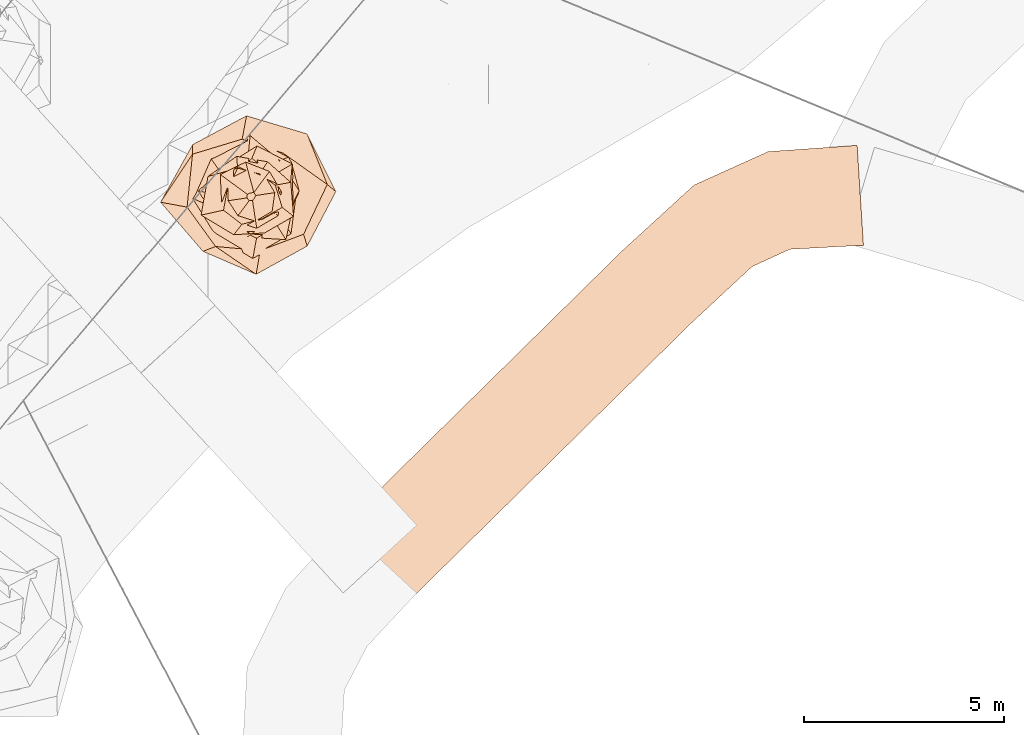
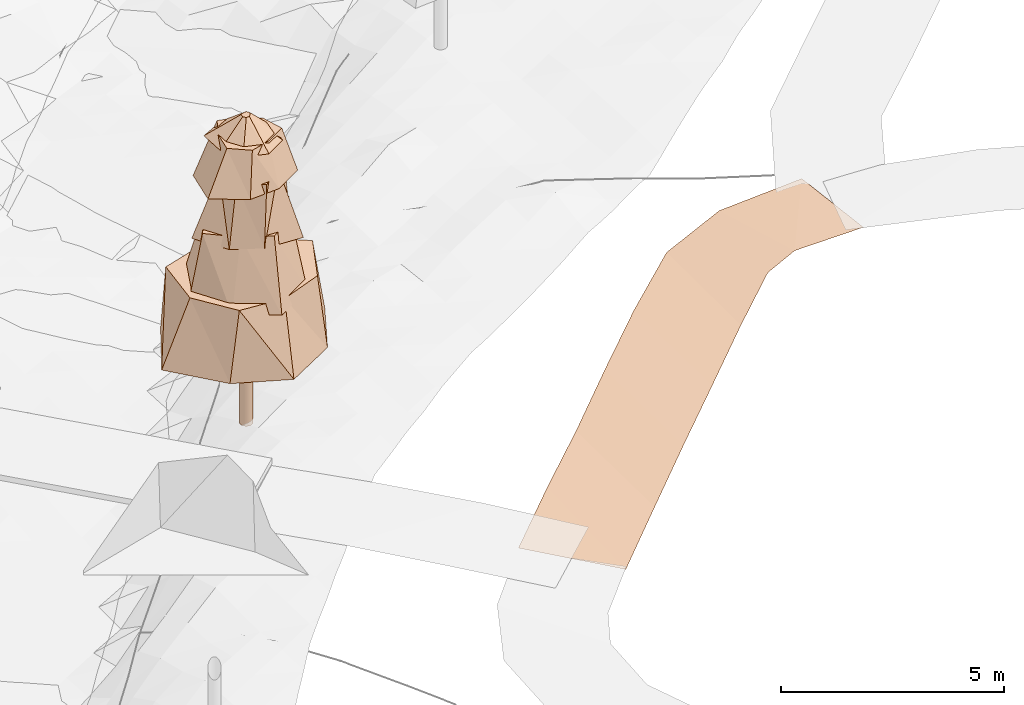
# Not in any storey, part 21 of 88: 2 geographic elements.
"""IFC4 model written with IfcOpenShell, lengths in metres."""

from ifc_helpers import new_model, si_unit, frame, origin_with_axes, place, context, subcontext, project, spatial, circle, extrude, faceted_brep, triangles, element, save


model = new_model("IFC4")

# Units and contexts
model_context = context("Model", 3, precision=1e-05, world=origin_with_axes())
body_context = subcontext(model_context, "Body", "Model", "MODEL_VIEW")
ifc_project = project(units=[si_unit("LENGTHUNIT", "METRE"), si_unit("AREAUNIT", "SQUARE_METRE"), si_unit("VOLUMEUNIT", "CUBIC_METRE"), si_unit("PLANEANGLEUNIT", "RADIAN")], contexts=[model_context])

# Sites
site_1_placement = place(None, origin_with_axes())
site_1 = spatial("IfcSite", under=ifc_project, at=site_1_placement, Name="CH907857693633", CompositionType="ELEMENT")
site_2_placement = place(None, origin_with_axes())
site_2 = spatial("IfcSite", under=site_1, at=site_2_placement, Name="Roads", CompositionType="ELEMENT")

# Geographic element
geographic_element_1_placement = place(None, origin_with_axes())
element("IfcGeographicElement", 1, at=geographic_element_1_placement, inside=site_2, Name="Road_weg", ObjectType="ROAD", PredefinedType="USERDEFINED", context=body_context, shape_type="Tessellation", body=[
    triangles([(58.4193675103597, 10.5310788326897, 2.86665039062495), (60.146867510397, 12.2305788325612, 2.8912475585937), (61.8743675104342, 13.9300788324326, 2.7982299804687), (63.6018675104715, 15.6295788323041, 2.84406738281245), (65.3433797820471, 17.3426504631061, 2.81977539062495), (67.1357012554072, 18.9811918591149, 2.78547363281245), (68.9824224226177, 19.8161450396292, 2.77595214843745), (71.2074156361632, 19.9715307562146, 2.77961425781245), (60.1726325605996, 8.74892797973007, 2.74946289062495), (61.9001325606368, 10.4484279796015, 2.8215454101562), (63.6276325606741, 12.147927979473, 2.8775756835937), (65.3551325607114, 13.8474279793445, 2.88056640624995), (67.0686202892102, 15.5333563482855, 2.90339355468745), (68.5802988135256, 16.9408149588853, 2.96430664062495), (69.5255776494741, 17.3758617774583, 2.9699829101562), (71.3645844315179, 17.4764760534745, 2.90461425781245)], [[1, 9, 2], [9, 10, 2], [2, 10, 3], [10, 11, 3], [3, 11, 4], [11, 12, 4], [4, 12, 5], [12, 13, 5], [5, 13, 6], [13, 14, 6], [6, 14, 7], [14, 15, 7], [7, 15, 8], [15, 16, 8]]),
])

# Site
site_3_placement = place(None, origin_with_axes())
site_3 = spatial("IfcSite", under=site_1, at=site_3_placement, Name="Simulated_forest", CompositionType="ELEMENT")

# Geographic element
geographic_element_2_placement = place(None, frame((56.0832574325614, 18.6896650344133, 2.17535400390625), z_axis=(0.0, 0.0, 1.0), x_axis=(1.0, 0.0, 0.0)))
element("IfcGeographicElement", 2, at=geographic_element_2_placement, inside=site_3, Name="Tree_SIMULATED_WOODED_AREA", ObjectType="VEGETATION", PredefinedType="USERDEFINED", context=body_context, shape_type="Brep", body=[
    extrude(circle(Radius=0.15), origin_with_axes(), (0.0, 0.0, 1.0), 2.31387184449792),
    faceted_brep([(1.3923950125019, -1.23362656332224, 2.31387184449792), (0.117139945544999, -1.93748837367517, 2.31387184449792), (-1.20974359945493, -1.36543829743, 2.31387184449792), (-2.26935199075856, -0.137204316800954, 2.31387184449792), (-1.46794378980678, 1.30056085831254, 2.31387184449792), (-0.122137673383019, 2.0201505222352, 2.31387184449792), (1.38852837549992, 1.56723277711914, 2.31387184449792), (2.10717128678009, 0.127398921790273, 2.31387184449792), (1.89299813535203, 0.306241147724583, 4.13287984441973), (0.786676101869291, 1.09033015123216, 4.13287984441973), (-0.2325444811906, 1.43744977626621, 4.13287984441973), (-1.47157377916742, 1.06174439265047, 4.13287984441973), (-1.60761062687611, -0.26007237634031, 4.13287984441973), (-0.896569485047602, -1.24264197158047, 4.13287984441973), (0.217588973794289, -1.34500384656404, 4.13287984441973), (1.30171504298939, -0.939190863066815, 4.13287984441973), (2.10717128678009, 0.127398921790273, 2.31387184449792), (1.38852837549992, 1.56723277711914, 2.31387184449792), (0.786676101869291, 1.09033015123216, 4.13287984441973), (1.89299813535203, 0.306241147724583, 4.13287984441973), (1.38852837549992, 1.56723277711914, 2.31387184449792), (-0.122137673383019, 2.0201505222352, 2.31387184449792), (-0.2325444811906, 1.43744977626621, 4.13287984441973), (0.786676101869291, 1.09033015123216, 4.13287984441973), (-0.122137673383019, 2.0201505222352, 2.31387184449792), (-1.46794378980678, 1.30056085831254, 2.31387184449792), (-1.47157377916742, 1.06174439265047, 4.13287984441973), (-0.2325444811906, 1.43744977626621, 4.13287984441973), (-1.46794378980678, 1.30056085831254, 2.31387184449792), (-2.26935199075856, -0.137204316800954, 2.31387184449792), (-1.60761062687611, -0.26007237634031, 4.13287984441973), (-1.47157377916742, 1.06174439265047, 4.13287984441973), (-2.26935199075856, -0.137204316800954, 2.31387184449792), (-1.20974359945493, -1.36543829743, 2.31387184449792), (-0.896569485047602, -1.24264197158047, 4.13287984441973), (-1.60761062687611, -0.26007237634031, 4.13287984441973), (-1.20974359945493, -1.36543829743, 2.31387184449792), (0.117139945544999, -1.93748837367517, 2.31387184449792), (0.217588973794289, -1.34500384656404, 4.13287984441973), (-0.896569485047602, -1.24264197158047, 4.13287984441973), (0.117139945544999, -1.93748837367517, 2.31387184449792), (1.3923950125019, -1.23362656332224, 2.31387184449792), (1.30171504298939, -0.939190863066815, 4.13287984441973), (0.217588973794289, -1.34500384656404, 4.13287984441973), (1.3923950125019, -1.23362656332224, 2.31387184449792), (2.10717128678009, 0.127398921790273, 2.31387184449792), (1.89299813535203, 0.306241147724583, 4.13287984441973), (1.30171504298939, -0.939190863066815, 4.13287984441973)], [[[0, 1, 2, 3, 4, 5, 6, 7]], [[8, 9, 10, 11, 12, 13, 14, 15]], [[16, 17, 18, 19]], [[20, 21, 22, 23]], [[24, 25, 26, 27]], [[28, 29, 30, 31]], [[32, 33, 34, 35]], [[36, 37, 38, 39]], [[40, 41, 42, 43]], [[44, 45, 46, 47]]]),
    faceted_brep([(1.01979401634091, -0.976627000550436, 3.86002864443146), (0.0333568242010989, -1.54271180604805, 3.86002864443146), (-0.927027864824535, -0.968002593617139, 3.86002864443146), (-1.50522440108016, -0.0325462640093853, 3.86002864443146), (-1.04915610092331, 1.00474621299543, 3.86002864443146), (-0.0330045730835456, 1.52642062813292, 3.86002864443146), (0.957217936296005, 0.999527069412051, 3.86002864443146), (1.15300796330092, 0.0249305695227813, 3.86002864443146), (1.19173112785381, 0.14565579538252, 5.6910714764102), (0.706334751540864, 0.903035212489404, 5.6910714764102), (-0.102009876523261, 0.83462758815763, 5.6910714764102), (-0.756284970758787, 0.591549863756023, 5.6910714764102), (-1.21638390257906, -0.14866890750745, 5.6910714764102), (-0.552663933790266, -0.70657006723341, 5.6910714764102), (0.126869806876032, -1.03802734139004, 5.6910714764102), (0.802522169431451, -0.627715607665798, 5.6910714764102), (1.15300796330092, 0.0249305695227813, 3.86002864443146), (0.957217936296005, 0.999527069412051, 3.86002864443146), (0.706334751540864, 0.903035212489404, 5.6910714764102), (1.19173112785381, 0.14565579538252, 5.6910714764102), (0.957217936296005, 0.999527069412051, 3.86002864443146), (-0.0330045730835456, 1.52642062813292, 3.86002864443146), (-0.102009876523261, 0.83462758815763, 5.6910714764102), (0.706334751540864, 0.903035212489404, 5.6910714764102), (-0.0330045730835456, 1.52642062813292, 3.86002864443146), (-1.04915610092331, 1.00474621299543, 3.86002864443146), (-0.756284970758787, 0.591549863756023, 5.6910714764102), (-0.102009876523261, 0.83462758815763, 5.6910714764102), (-1.04915610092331, 1.00474621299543, 3.86002864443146), (-1.50522440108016, -0.0325462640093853, 3.86002864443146), (-1.21638390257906, -0.14866890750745, 5.6910714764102), (-0.756284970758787, 0.591549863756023, 5.6910714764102), (-1.50522440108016, -0.0325462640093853, 3.86002864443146), (-0.927027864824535, -0.968002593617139, 3.86002864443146), (-0.552663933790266, -0.70657006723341, 5.6910714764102), (-1.21638390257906, -0.14866890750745, 5.6910714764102), (-0.927027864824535, -0.968002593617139, 3.86002864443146), (0.0333568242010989, -1.54271180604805, 3.86002864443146), (0.126869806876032, -1.03802734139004, 5.6910714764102), (-0.552663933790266, -0.70657006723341, 5.6910714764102), (0.0333568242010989, -1.54271180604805, 3.86002864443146), (1.01979401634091, -0.976627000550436, 3.86002864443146), (0.802522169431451, -0.627715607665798, 5.6910714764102), (0.126869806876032, -1.03802734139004, 5.6910714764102), (1.01979401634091, -0.976627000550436, 3.86002864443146), (1.15300796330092, 0.0249305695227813, 3.86002864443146), (1.19173112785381, 0.14565579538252, 5.6910714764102), (0.802522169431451, -0.627715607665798, 5.6910714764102)], [[[0, 1, 2, 3, 4, 5, 6, 7]], [[8, 9, 10, 11, 12, 13, 14, 15]], [[16, 17, 18, 19]], [[20, 21, 22, 23]], [[24, 25, 26, 27]], [[28, 29, 30, 31]], [[32, 33, 34, 35]], [[36, 37, 38, 39]], [[40, 41, 42, 43]], [[44, 45, 46, 47]]]),
    faceted_brep([(1.06154887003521, -0.116722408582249, 5.41641505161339), (0.860214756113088, -1.07275397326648, 5.41641505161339), (-0.11111082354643, -1.01051349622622, 5.41641505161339), (-0.817117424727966, -0.655226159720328, 5.41641505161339), (-1.32708660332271, 0.145919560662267, 5.41641505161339), (-0.629096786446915, 0.784532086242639, 5.41641505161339), (0.139295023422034, 1.26683878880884, 5.41641505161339), (1.0185028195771, 0.816712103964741, 5.41641505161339), (0.548265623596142, 0.537930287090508, 7.08596196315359), (0.00911584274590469, 0.958032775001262, 7.08596196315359), (-0.484568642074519, 0.493878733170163, 7.08596196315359), (-0.700780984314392, 0.00666804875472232, 7.08596196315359), (-0.58980883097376, -0.578690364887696, 7.08596196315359), (-0.00890056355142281, -0.935407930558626, 7.08596196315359), (0.523535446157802, -0.533594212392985, 7.08596196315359), (0.944918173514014, -0.00899105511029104, 7.08596196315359), (1.0185028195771, 0.816712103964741, 5.41641505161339), (0.139295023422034, 1.26683878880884, 5.41641505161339), (0.00911584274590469, 0.958032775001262, 7.08596196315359), (0.548265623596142, 0.537930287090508, 7.08596196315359), (0.139295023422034, 1.26683878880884, 5.41641505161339), (-0.629096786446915, 0.784532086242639, 5.41641505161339), (-0.484568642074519, 0.493878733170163, 7.08596196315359), (0.00911584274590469, 0.958032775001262, 7.08596196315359), (-0.629096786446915, 0.784532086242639, 5.41641505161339), (-1.32708660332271, 0.145919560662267, 5.41641505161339), (-0.700780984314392, 0.00666804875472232, 7.08596196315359), (-0.484568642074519, 0.493878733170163, 7.08596196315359), (-1.32708660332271, 0.145919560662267, 5.41641505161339), (-0.817117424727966, -0.655226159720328, 5.41641505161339), (-0.58980883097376, -0.578690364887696, 7.08596196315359), (-0.700780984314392, 0.00666804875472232, 7.08596196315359), (-0.817117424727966, -0.655226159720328, 5.41641505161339), (-0.11111082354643, -1.01051349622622, 5.41641505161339), (-0.00890056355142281, -0.935407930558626, 7.08596196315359), (-0.58980883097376, -0.578690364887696, 7.08596196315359), (-0.11111082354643, -1.01051349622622, 5.41641505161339), (0.860214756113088, -1.07275397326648, 5.41641505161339), (0.523535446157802, -0.533594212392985, 7.08596196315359), (-0.00890056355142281, -0.935407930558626, 7.08596196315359), (0.860214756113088, -1.07275397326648, 5.41641505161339), (1.06154887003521, -0.116722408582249, 5.41641505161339), (0.944918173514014, -0.00899105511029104, 7.08596196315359), (0.523535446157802, -0.533594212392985, 7.08596196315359), (1.06154887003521, -0.116722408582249, 5.41641505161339), (1.0185028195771, 0.816712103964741, 5.41641505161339), (0.548265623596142, 0.537930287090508, 7.08596196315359), (0.944918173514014, -0.00899105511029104, 7.08596196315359)], [[[0, 1, 2, 3, 4, 5, 6, 7]], [[8, 9, 10, 11, 12, 13, 14, 15]], [[16, 17, 18, 19]], [[20, 21, 22, 23]], [[24, 25, 26, 27]], [[28, 29, 30, 31]], [[32, 33, 34, 35]], [[36, 37, 38, 39]], [[40, 41, 42, 43]], [[44, 45, 46, 47]]]),
    faceted_brep([(1.05108996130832, -0.488559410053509, 6.83552992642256), (0.330196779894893, -0.903750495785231, 6.83552992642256), (-0.441648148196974, -0.950164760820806, 6.83552992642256), (-1.25712717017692, -0.459307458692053, 6.83552992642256), (-1.08576449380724, 0.50467655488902, 6.83552992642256), (-0.368146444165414, 1.00761894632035, 6.83552992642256), (0.404718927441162, 0.870714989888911, 6.83552992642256), (0.980579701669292, 0.358267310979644, 6.83552992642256), (0.594873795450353, 0.287573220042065, 7.95350456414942), (0.197500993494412, 0.567145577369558, 7.95350456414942), (-0.345185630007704, 0.714050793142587, 7.95350456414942), (-0.599603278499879, 0.208803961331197, 7.95350456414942), (-0.69728377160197, -0.337080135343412, 7.95350456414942), (-0.240192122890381, -0.689737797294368, 7.95350456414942), (0.266913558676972, -0.552137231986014, 7.95350456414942), (0.767156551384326, -0.2671521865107, 7.95350456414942), (0.980579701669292, 0.358267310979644, 6.83552992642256), (0.404718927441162, 0.870714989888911, 6.83552992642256), (0.197500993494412, 0.567145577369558, 7.95350456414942), (0.594873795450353, 0.287573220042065, 7.95350456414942), (0.404718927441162, 0.870714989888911, 6.83552992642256), (-0.368146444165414, 1.00761894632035, 6.83552992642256), (-0.345185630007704, 0.714050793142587, 7.95350456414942), (0.197500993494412, 0.567145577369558, 7.95350456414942), (-0.368146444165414, 1.00761894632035, 6.83552992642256), (-1.08576449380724, 0.50467655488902, 6.83552992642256), (-0.599603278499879, 0.208803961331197, 7.95350456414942), (-0.345185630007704, 0.714050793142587, 7.95350456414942), (-1.08576449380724, 0.50467655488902, 6.83552992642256), (-1.25712717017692, -0.459307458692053, 6.83552992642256), (-0.69728377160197, -0.337080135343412, 7.95350456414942), (-0.599603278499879, 0.208803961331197, 7.95350456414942), (-1.25712717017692, -0.459307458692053, 6.83552992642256), (-0.441648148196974, -0.950164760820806, 6.83552992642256), (-0.240192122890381, -0.689737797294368, 7.95350456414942), (-0.69728377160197, -0.337080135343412, 7.95350456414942), (-0.441648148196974, -0.950164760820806, 6.83552992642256), (0.330196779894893, -0.903750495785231, 6.83552992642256), (0.266913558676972, -0.552137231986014, 7.95350456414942), (-0.240192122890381, -0.689737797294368, 7.95350456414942), (0.330196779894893, -0.903750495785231, 6.83552992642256), (1.05108996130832, -0.488559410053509, 6.83552992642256), (0.767156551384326, -0.2671521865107, 7.95350456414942), (0.266913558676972, -0.552137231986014, 7.95350456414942), (1.05108996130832, -0.488559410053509, 6.83552992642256), (0.980579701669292, 0.358267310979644, 6.83552992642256), (0.594873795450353, 0.287573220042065, 7.95350456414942), (0.767156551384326, -0.2671521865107, 7.95350456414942)], [[[0, 1, 2, 3, 4, 5, 6, 7]], [[8, 9, 10, 11, 12, 13, 14, 15]], [[16, 17, 18, 19]], [[20, 21, 22, 23]], [[24, 25, 26, 27]], [[28, 29, 30, 31]], [[32, 33, 34, 35]], [[36, 37, 38, 39]], [[40, 41, 42, 43]], [[44, 45, 46, 47]]]),
    faceted_brep([(0.665150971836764, -0.474712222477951, 7.78580836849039), (0.131627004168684, -0.787847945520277, 7.78580836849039), (-0.433936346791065, -0.608017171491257, 7.78580836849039), (-0.747257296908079, -0.124845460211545, 7.78580836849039), (-0.778046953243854, 0.555285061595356, 7.78580836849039), (-0.144399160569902, 0.864295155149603, 7.78580836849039), (0.449633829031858, 0.630011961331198, 7.78580836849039), (0.749679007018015, 0.125250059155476, 7.78580836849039), (0.11130816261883, 0.0302719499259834, 8.42756260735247), (0.0597891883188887, 0.10445897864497, 8.42756260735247), (-0.0255725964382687, 0.094028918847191, 8.42756260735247), (-0.103987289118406, 0.0595192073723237, 8.42756260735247), (-0.110431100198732, -0.0300334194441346, 8.42756260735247), (-0.0548457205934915, -0.0958221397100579, 8.42756260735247), (0.0263930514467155, -0.0970456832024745, 8.42756260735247), (0.0713103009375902, -0.0408158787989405, 8.42756260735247), (0.749679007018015, 0.125250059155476, 7.78580836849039), (0.449633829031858, 0.630011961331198, 7.78580836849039), (0.0597891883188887, 0.10445897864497, 8.42756260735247), (0.11130816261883, 0.0302719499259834, 8.42756260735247), (0.449633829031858, 0.630011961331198, 7.78580836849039), (-0.144399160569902, 0.864295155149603, 7.78580836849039), (-0.0255725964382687, 0.094028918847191, 8.42756260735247), (0.0597891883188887, 0.10445897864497, 8.42756260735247), (-0.144399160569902, 0.864295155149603, 7.78580836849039), (-0.778046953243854, 0.555285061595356, 7.78580836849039), (-0.103987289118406, 0.0595192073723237, 8.42756260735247), (-0.0255725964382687, 0.094028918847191, 8.42756260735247), (-0.778046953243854, 0.555285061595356, 7.78580836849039), (-0.747257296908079, -0.124845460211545, 7.78580836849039), (-0.110431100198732, -0.0300334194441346, 8.42756260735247), (-0.103987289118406, 0.0595192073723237, 8.42756260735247), (-0.747257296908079, -0.124845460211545, 7.78580836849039), (-0.433936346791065, -0.608017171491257, 7.78580836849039), (-0.0548457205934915, -0.0958221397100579, 8.42756260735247), (-0.110431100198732, -0.0300334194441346, 8.42756260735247), (-0.433936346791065, -0.608017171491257, 7.78580836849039), (0.131627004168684, -0.787847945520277, 7.78580836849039), (0.0263930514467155, -0.0970456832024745, 8.42756260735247), (-0.0548457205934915, -0.0958221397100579, 8.42756260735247), (0.131627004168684, -0.787847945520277, 7.78580836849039), (0.665150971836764, -0.474712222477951, 7.78580836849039), (0.0713103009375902, -0.0408158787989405, 8.42756260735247), (0.0263930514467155, -0.0970456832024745, 8.42756260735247), (0.665150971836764, -0.474712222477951, 7.78580836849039), (0.749679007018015, 0.125250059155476, 7.78580836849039), (0.11130816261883, 0.0302719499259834, 8.42756260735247), (0.0713103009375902, -0.0408158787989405, 8.42756260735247)], [[[0, 1, 2, 3, 4, 5, 6, 7]], [[8, 9, 10, 11, 12, 13, 14, 15]], [[16, 17, 18, 19]], [[20, 21, 22, 23]], [[24, 25, 26, 27]], [[28, 29, 30, 31]], [[32, 33, 34, 35]], [[36, 37, 38, 39]], [[40, 41, 42, 43]], [[44, 45, 46, 47]]]),
])

save(model, "model.ifc")
